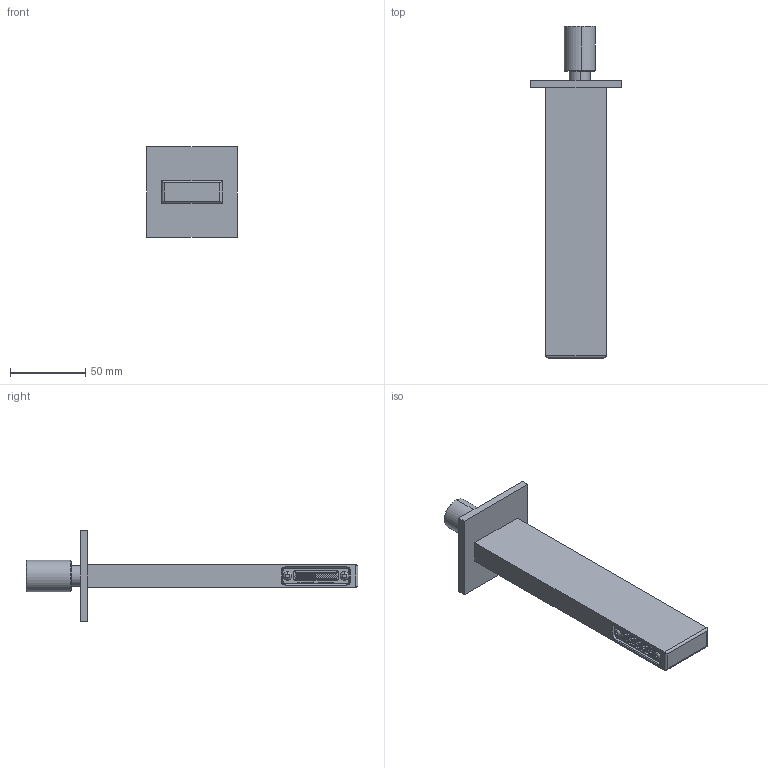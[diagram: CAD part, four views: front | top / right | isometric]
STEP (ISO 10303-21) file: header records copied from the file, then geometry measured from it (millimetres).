
FILE_DESCRIPTION (( 'STEP AP203' ), '1' );
FILE_NAME ('C5M1.STEP', '2023-10-17T12:27:28', ( '' ), ( '' ), 'SwSTEP 2.0', 'SolidWorks 2021', '' );
FILE_SCHEMA (( 'CONFIG_CONTROL_DESIGN' ));
Length unit declared in the file: millimetre
Products named in the file (9): VITE TCEI M4x10; EU0086_1; C5M1; EU1403_0; EU0081_0; C13.00.0017; OR765178ACS; EU1405_0; VITEB3X8
Assembly tree (10 placements, depth 2):
  C5M1
    EU1403_0
    EU0086_1
    VITE TCEI M4x10  x2
    EU0081_0
    OR765178ACS
    VITEB3X8  x2
    C13.00.0017
    EU1405_0
Bounding box: 60 x 221 x 60 mm (x, y, z)
Volume: 122281.1 mm3; surface area: 48147.4 mm2
Topology: 10 solids, 10 shells, 1002 faces, 2896 edges, 1884 vertices
Faces by surface type: plane 483, cylinder 415, cone 56, torus 48
Entity records: 34041 total; most frequent: CARTESIAN_POINT 5741, DIRECTION 5676, ORIENTED_EDGE 5624, EDGE_CURVE 2812, AXIS2_PLACEMENT_3D 1907, VECTOR 1862, LINE 1862, VERTEX_POINT 1836
